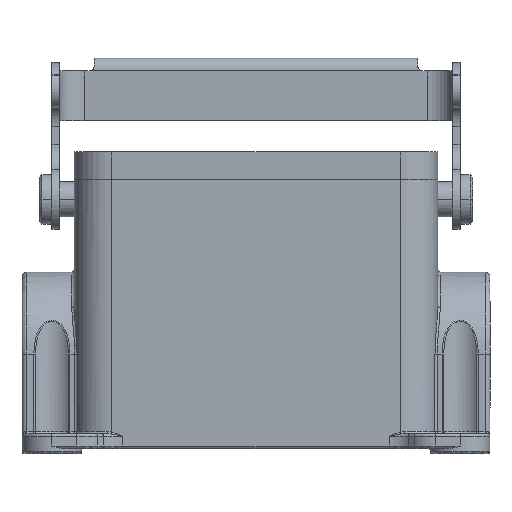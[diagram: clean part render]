
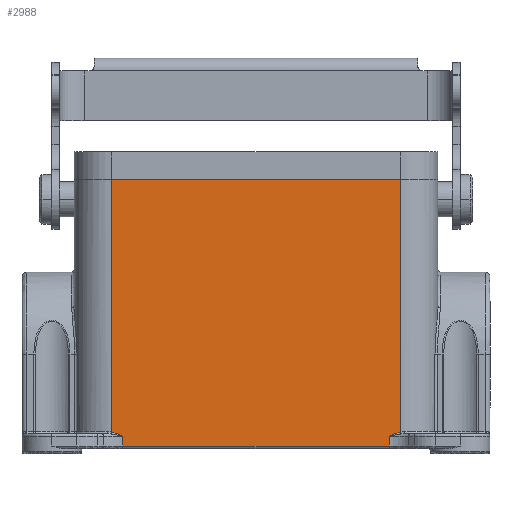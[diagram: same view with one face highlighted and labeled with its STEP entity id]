
A CAD part, top view. The second image highlights one B-rep face of the part: STEP entity #2988.
In plain terms, the highlighted planar face has unit normal (0, 0, 1) as drawn and (-1, 0, 0) by its records, which use the part's own axes.
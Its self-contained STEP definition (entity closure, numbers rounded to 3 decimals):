
#15 = EDGE_LOOP ( 'NONE', ( #16356, #8412, #8865, #10596, #16041, #13198, #24090, #6434 ) ) ;
#59 = VERTEX_POINT ( 'NONE', #23858 ) ;
#112 = CARTESIAN_POINT ( 'NONE',  ( -21.5, 2.5, -26.737 ) ) ;
#262 = CARTESIAN_POINT ( 'NONE',  ( -21.5, 3.205, -28.465 ) ) ;
#274 = B_SPLINE_CURVE_WITH_KNOTS ( 'NONE', 3,
 ( #10268, #2683, #15911, #14263, #17780, #10527, #4958, #14093, #771, #17871, #2775, #4620, #18036, #6740, #6576, #21797, #23716, #19751, #12257 ),
 .UNSPECIFIED., .F., .F.,
 ( 4, 1, 1, 1, 1, 1, 2, 2, 1, 1, 2, 2, 4 ),
 ( 0., 0.25, 0.375, 0.438, 0.469, 0.484, 0.492, 0.5, 0.625, 0.688, 0.719, 0.75, 1. ),
 .UNSPECIFIED. ) ;
#595 = LINE ( 'NONE', #5259, #9807 ) ;
#771 = CARTESIAN_POINT ( 'NONE',  ( -21.5, 2.976, 27.84 ) ) ;
#1835 = DIRECTION ( 'NONE',  ( 0., -1., 0. ) ) ;
#2112 = CARTESIAN_POINT ( 'NONE',  ( -21.5, 3.196, -28.44 ) ) ;
#2679 = B_SPLINE_CURVE_WITH_KNOTS ( 'NONE', 3,
 ( #5952, #15283, #22875, #7827, #9473, #262, #2112, #13273, #9553, #17301, #19090, #3799, #5798, #11369, #11600, #17143, #22797, #4122, #11521, #20971, #20833, #9630, #7582, #13512, #112 ),
 .UNSPECIFIED., .F., .F.,
 ( 4, 1, 1, 2, 2, 1, 1, 1, 1, 2, 2, 1, 1, 1, 2, 2, 4 ),
 ( 0., 0.125, 0.188, 0.219, 0.25, 0.375, 0.438, 0.469, 0.484, 0.492, 0.5, 0.625, 0.688, 0.719, 0.734, 0.75, 1. ),
 .UNSPECIFIED. ) ;
#2683 = CARTESIAN_POINT ( 'NONE',  ( -21.5, 2.598, 26.953 ) ) ;
#2775 = CARTESIAN_POINT ( 'NONE',  ( -21.5, 3.02, 27.951 ) ) ;
#2821 = VERTEX_POINT ( 'NONE', #12614 ) ;
#2988 = ADVANCED_FACE ( 'NONE', ( #18237 ), #7090, .T. ) ;
#3799 = CARTESIAN_POINT ( 'NONE',  ( -21.5, 2.997, -27.895 ) ) ;
#4122 = CARTESIAN_POINT ( 'NONE',  ( -21.5, 2.824, -27.473 ) ) ;
#4472 = EDGE_CURVE ( 'NONE', #22414, #59, #13757, .T. ) ;
#4620 = CARTESIAN_POINT ( 'NONE',  ( -21.5, 3.076, 28.098 ) ) ;
#4958 = CARTESIAN_POINT ( 'NONE',  ( -21.5, 2.966, 27.816 ) ) ;
#5002 = LINE ( 'NONE', #6423, #21449 ) ;
#5259 = CARTESIAN_POINT ( 'NONE',  ( -21.5, 0., -29. ) ) ;
#5798 = CARTESIAN_POINT ( 'NONE',  ( -21.5, 2.99, -27.875 ) ) ;
#5952 = CARTESIAN_POINT ( 'NONE',  ( -21.5, 3.359, -29. ) ) ;
#6403 = CARTESIAN_POINT ( 'NONE',  ( -21.5, 3.359, 29. ) ) ;
#6423 = CARTESIAN_POINT ( 'NONE',  ( -21.5, 0., -26.737 ) ) ;
#6434 = ORIENTED_EDGE ( 'NONE', *, *, #23719, .T. ) ;
#6576 = CARTESIAN_POINT ( 'NONE',  ( -21.5, 3.174, 28.374 ) ) ;
#6740 = CARTESIAN_POINT ( 'NONE',  ( -21.5, 3.159, 28.329 ) ) ;
#7062 = AXIS2_PLACEMENT_3D ( 'NONE', #20271, #12873, #20186 ) ;
#7090 = PLANE ( 'NONE',  #7062 ) ;
#7582 = CARTESIAN_POINT ( 'NONE',  ( -21.5, 2.661, -27.093 ) ) ;
#7827 = CARTESIAN_POINT ( 'NONE',  ( -21.5, 3.243, -28.584 ) ) ;
#8412 = ORIENTED_EDGE ( 'NONE', *, *, #23196, .T. ) ;
#8579 = DIRECTION ( 'NONE',  ( 0., -1., 0. ) ) ;
#8865 = ORIENTED_EDGE ( 'NONE', *, *, #13219, .T. ) ;
#8869 = VECTOR ( 'NONE', #14326, 1000. ) ;
#9473 = CARTESIAN_POINT ( 'NONE',  ( -21.5, 3.22, -28.512 ) ) ;
#9537 = EDGE_CURVE ( 'NONE', #21319, #2821, #595, .T. ) ;
#9553 = CARTESIAN_POINT ( 'NONE',  ( -21.5, 3.112, -28.196 ) ) ;
#9609 = VERTEX_POINT ( 'NONE', #22505 ) ;
#9630 = CARTESIAN_POINT ( 'NONE',  ( -21.5, 2.751, -27.303 ) ) ;
#9807 = VECTOR ( 'NONE', #1835, 1000. ) ;
#10039 = VERTEX_POINT ( 'NONE', #6403 ) ;
#10268 = CARTESIAN_POINT ( 'NONE',  ( -21.5, 2.5, 26.737 ) ) ;
#10527 = CARTESIAN_POINT ( 'NONE',  ( -21.5, 2.952, 27.781 ) ) ;
#10596 = ORIENTED_EDGE ( 'NONE', *, *, #4472, .T. ) ;
#11369 = CARTESIAN_POINT ( 'NONE',  ( -21.5, 2.984, -27.863 ) ) ;
#11521 = CARTESIAN_POINT ( 'NONE',  ( -21.5, 2.786, -27.384 ) ) ;
#11600 = CARTESIAN_POINT ( 'NONE',  ( -21.5, 2.981, -27.855 ) ) ;
#12120 = EDGE_CURVE ( 'NONE', #10039, #20205, #23278, .T. ) ;
#12257 = CARTESIAN_POINT ( 'NONE',  ( -21.5, 3.359, 29. ) ) ;
#12283 = LINE ( 'NONE', #20945, #18214 ) ;
#12413 = CARTESIAN_POINT ( 'NONE',  ( -21.5, 0.5, -26.737 ) ) ;
#12577 = CARTESIAN_POINT ( 'NONE',  ( -21.5, 0., 26.737 ) ) ;
#12614 = CARTESIAN_POINT ( 'NONE',  ( -21.5, 3.359, -29. ) ) ;
#12873 = DIRECTION ( 'NONE',  ( -1., 0., 0. ) ) ;
#13180 = VECTOR ( 'NONE', #23599, 1000. ) ;
#13198 = ORIENTED_EDGE ( 'NONE', *, *, #18284, .T. ) ;
#13219 = EDGE_CURVE ( 'NONE', #20002, #22414, #5002, .T. ) ;
#13273 = CARTESIAN_POINT ( 'NONE',  ( -21.5, 3.16, -28.332 ) ) ;
#13512 = CARTESIAN_POINT ( 'NONE',  ( -21.5, 2.579, -26.908 ) ) ;
#13757 = LINE ( 'NONE', #20012, #24093 ) ;
#14093 = CARTESIAN_POINT ( 'NONE',  ( -21.5, 2.972, 27.83 ) ) ;
#14263 = CARTESIAN_POINT ( 'NONE',  ( -21.5, 2.864, 27.566 ) ) ;
#14326 = DIRECTION ( 'NONE',  ( 0., 1., 0. ) ) ;
#14411 = CARTESIAN_POINT ( 'NONE',  ( -21.5, 54., 29. ) ) ;
#15270 = LINE ( 'NONE', #12577, #13180 ) ;
#15283 = CARTESIAN_POINT ( 'NONE',  ( -21.5, 3.334, -28.9 ) ) ;
#15787 = CARTESIAN_POINT ( 'NONE',  ( -21.5, 54., -29. ) ) ;
#15911 = CARTESIAN_POINT ( 'NONE',  ( -21.5, 2.732, 27.255 ) ) ;
#16041 = ORIENTED_EDGE ( 'NONE', *, *, #20282, .T. ) ;
#16356 = ORIENTED_EDGE ( 'NONE', *, *, #9537, .T. ) ;
#17143 = CARTESIAN_POINT ( 'NONE',  ( -21.5, 2.948, -27.772 ) ) ;
#17270 = DIRECTION ( 'NONE',  ( 0., 0., -1. ) ) ;
#17301 = CARTESIAN_POINT ( 'NONE',  ( -21.5, 3.049, -28.026 ) ) ;
#17362 = CARTESIAN_POINT ( 'NONE',  ( -21.5, 2.5, -26.737 ) ) ;
#17780 = CARTESIAN_POINT ( 'NONE',  ( -21.5, 2.924, 27.711 ) ) ;
#17871 = CARTESIAN_POINT ( 'NONE',  ( -21.5, 2.977, 27.843 ) ) ;
#18036 = CARTESIAN_POINT ( 'NONE',  ( -21.5, 3.135, 28.261 ) ) ;
#18214 = VECTOR ( 'NONE', #17270, 1000. ) ;
#18237 = FACE_OUTER_BOUND ( 'NONE', #15, .T. ) ;
#18284 = EDGE_CURVE ( 'NONE', #9609, #10039, #274, .T. ) ;
#18339 = CARTESIAN_POINT ( 'NONE',  ( -21.5, 0., 29. ) ) ;
#19090 = CARTESIAN_POINT ( 'NONE',  ( -21.5, 3.015, -27.939 ) ) ;
#19751 = CARTESIAN_POINT ( 'NONE',  ( -21.5, 3.31, 28.803 ) ) ;
#20002 = VERTEX_POINT ( 'NONE', #17362 ) ;
#20012 = CARTESIAN_POINT ( 'NONE',  ( -21.5, 0.5, -36.5 ) ) ;
#20186 = DIRECTION ( 'NONE',  ( 0., 0., 1. ) ) ;
#20205 = VERTEX_POINT ( 'NONE', #14411 ) ;
#20271 = CARTESIAN_POINT ( 'NONE',  ( -21.5, 0., -36.5 ) ) ;
#20282 = EDGE_CURVE ( 'NONE', #59, #9609, #15270, .T. ) ;
#20833 = CARTESIAN_POINT ( 'NONE',  ( -21.5, 2.757, -27.317 ) ) ;
#20945 = CARTESIAN_POINT ( 'NONE',  ( -21.5, 54., -36.5 ) ) ;
#20971 = CARTESIAN_POINT ( 'NONE',  ( -21.5, 2.769, -27.344 ) ) ;
#21319 = VERTEX_POINT ( 'NONE', #15787 ) ;
#21449 = VECTOR ( 'NONE', #8579, 1000. ) ;
#21797 = CARTESIAN_POINT ( 'NONE',  ( -21.5, 3.181, 28.395 ) ) ;
#21988 = DIRECTION ( 'NONE',  ( 0., 0., 1. ) ) ;
#22414 = VERTEX_POINT ( 'NONE', #12413 ) ;
#22505 = CARTESIAN_POINT ( 'NONE',  ( -21.5, 2.5, 26.737 ) ) ;
#22797 = CARTESIAN_POINT ( 'NONE',  ( -21.5, 2.896, -27.643 ) ) ;
#22875 = CARTESIAN_POINT ( 'NONE',  ( -21.5, 3.293, -28.752 ) ) ;
#23196 = EDGE_CURVE ( 'NONE', #2821, #20002, #2679, .T. ) ;
#23278 = LINE ( 'NONE', #18339, #8869 ) ;
#23599 = DIRECTION ( 'NONE',  ( 0., 1., 0. ) ) ;
#23716 = CARTESIAN_POINT ( 'NONE',  ( -21.5, 3.253, 28.609 ) ) ;
#23719 = EDGE_CURVE ( 'NONE', #20205, #21319, #12283, .T. ) ;
#23858 = CARTESIAN_POINT ( 'NONE',  ( -21.5, 0.5, 26.737 ) ) ;
#24090 = ORIENTED_EDGE ( 'NONE', *, *, #12120, .T. ) ;
#24093 = VECTOR ( 'NONE', #21988, 1000. ) ;
